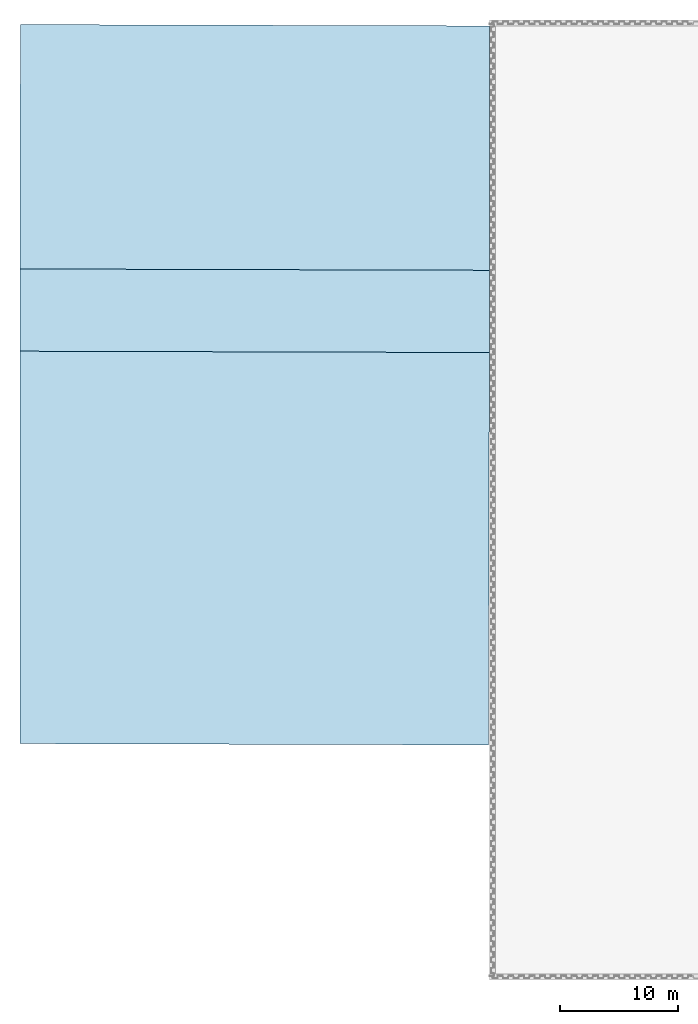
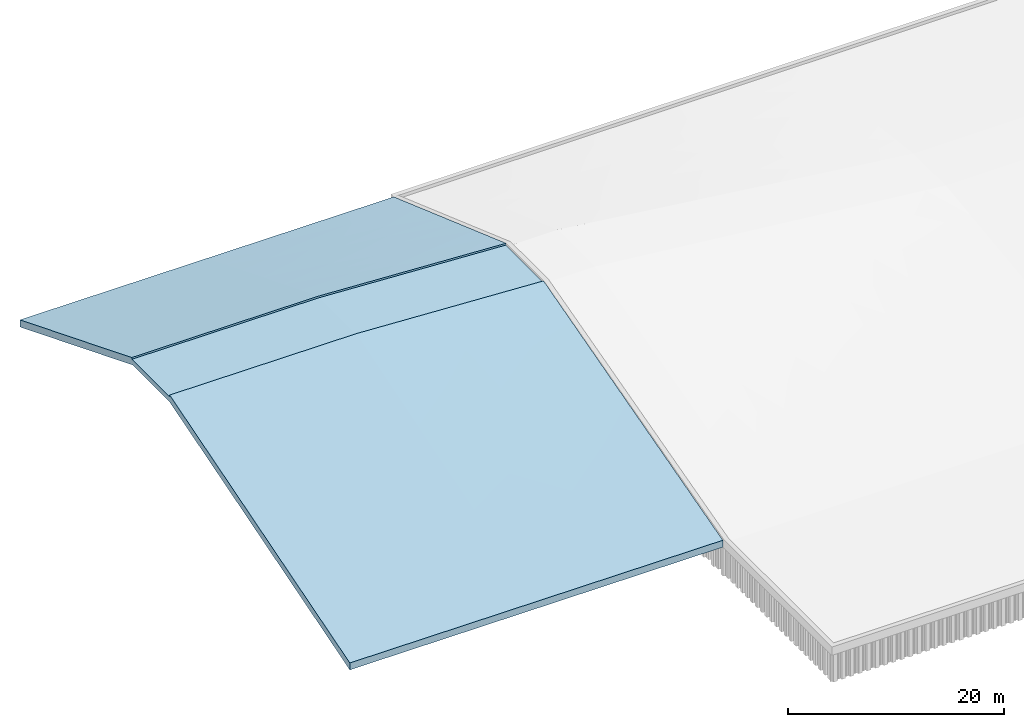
# One storey, part 2 of 32: 1 slab.
"""IFC2X3 building model written with IfcOpenShell, lengths in millimetres."""

import ifcopenshell
import ifcopenshell.guid

model = None  # the IFC model being written
_history = None  # IfcOwnerHistory: only IFC2X3 demands one
_inside = {}  # id of a spatial element -> (the spatial element, [elements in it])
_under = {}  # id of a project, library or spatial element -> (it, [spatial elements below it])
_declared = {}  # id of a project -> (the project, [libraries it declares])
_typed = {}  # id of a type object -> (the type object, [elements of that type])
_made_of = {}  # id of a material, layer set ... -> (it, [elements and type objects made of it])


def new_model(schema):
    """Start an empty IFC model of exactly this schema.

    Asked for "IFC4X3", IfcOpenShell would pick the latest addendum, in which some entities
    have other attributes; the version numbers below select the first issue.
    IFC2X3 requires an IfcOwnerHistory on every rooted entity: one is made here for all.
    """
    global model, _history
    if schema == "IFC4X3":
        model = ifcopenshell.file(schema_version=(4, 3, 0, 0))
    else:
        model = ifcopenshell.file(schema=schema)
    _inside.clear()
    _under.clear()
    _declared.clear()
    _typed.clear()
    _made_of.clear()
    _history = None
    if model.schema == "IFC2X3":
        org = make("IfcOrganization", Name="unknown")
        user = make(
            "IfcPersonAndOrganization",
            ThePerson=make("IfcPerson", FamilyName="unknown"),
            TheOrganization=org,
        )
        app = make(
            "IfcApplication",
            ApplicationDeveloper=org,
            Version="unknown",
            ApplicationFullName="unknown",
            ApplicationIdentifier="unknown",
        )
        _history = make(
            "IfcOwnerHistory",
            OwningUser=user,
            OwningApplication=app,
            ChangeAction="ADDED",
            CreationDate=0,
        )
    return model


def make(cls, **values):
    """One entity of the class cls with the attributes given. An attribute that is None is left unset."""
    return model.create_entity(
        cls, **{name: value for name, value in values.items() if value is not None}
    )


def entity(cls, *values):
    """Any entity or typed value of the class cls, its attributes in the order of the schema. None: left unset."""
    e = model.create_entity(cls)
    for i, value in enumerate(values):
        if value is not None:
            e[i] = value
    return e


def rooted(cls, **values):
    """An entity with a GlobalId (a new one), such as an element, a storey or a relation."""
    return make(cls, GlobalId=ifcopenshell.guid.new(), OwnerHistory=_history, **values)


def si_unit(unit_type, name, prefix=None):
    """IfcSIUnit, for example si_unit("LENGTHUNIT", "METRE", prefix="MILLI")."""
    return make("IfcSIUnit", UnitType=unit_type, Prefix=prefix, Name=name)


def converted_unit(unit_type, name, factor, base, dimensions=None, offset=None):
    """IfcConversionBasedUnit, such as the inch: factor (a typed value) times the base unit."""
    return make(
        "IfcConversionBasedUnit"
        if offset is None
        else "IfcConversionBasedUnitWithOffset",
        ConversionOffset=offset,
        Dimensions=None
        if dimensions is None
        else entity("IfcDimensionalExponents", *dimensions),
        UnitType=unit_type,
        Name=name,
        ConversionFactor=make(
            "IfcMeasureWithUnit", ValueComponent=factor, UnitComponent=base
        ),
    )


def derived_unit(unit_type, elements):
    """IfcDerivedUnit: a product of units, each with its exponent."""
    return make(
        "IfcDerivedUnit",
        Elements=[
            make("IfcDerivedUnitElement", Unit=unit, Exponent=power)
            for unit, power in elements
        ],
        UnitType=unit_type,
    )


def assignment(units):
    """IfcUnitAssignment: the units of a project."""
    return None if units is None else make("IfcUnitAssignment", Units=units)


def point(xyz):
    """IfcCartesianPoint."""
    return None if xyz is None else make("IfcCartesianPoint", Coordinates=xyz)


def direction(xyz):
    """IfcDirection."""
    return None if xyz is None else make("IfcDirection", DirectionRatios=xyz)


def frame(location, z_axis=None, x_axis=None):
    """IfcAxis2Placement3D, a coordinate frame: its origin and axes. An axis left out is left unset."""
    return make(
        "IfcAxis2Placement3D",
        Location=point(location),
        Axis=direction(z_axis),
        RefDirection=direction(x_axis),
    )


def origin():
    """The frame at (0, 0, 0) with its axes left unset."""
    return frame((0.0, 0.0, 0.0))


def place(relative_to, where):
    """IfcLocalPlacement: puts the frame where relative to a parent placement (None: the world)."""
    return make(
        "IfcLocalPlacement", PlacementRelTo=relative_to, RelativePlacement=where
    )


def context(
    kind, dimensions, precision=None, world=None, true_north=None, identifier=None
):
    """IfcGeometricRepresentationContext, for example the 3D "Model" context."""
    return make(
        "IfcGeometricRepresentationContext",
        ContextIdentifier=identifier,
        ContextType=kind,
        CoordinateSpaceDimension=dimensions,
        Precision=precision,
        WorldCoordinateSystem=world,
        TrueNorth=true_north,
    )


def subcontext(parent, identifier, kind, view, scale=None):
    """IfcGeometricRepresentationSubContext, for example "Body" below "Model"."""
    return make(
        "IfcGeometricRepresentationSubContext",
        ContextIdentifier=identifier,
        ContextType=kind,
        ParentContext=parent,
        TargetScale=scale,
        TargetView=view,
    )


def project(units=None, contexts=None):
    """IfcProject with its units and contexts."""
    return rooted(
        "IfcProject",
        Name="project",
        RepresentationContexts=contexts,
        UnitsInContext=assignment(units),
    )


def spatial(cls, under=None, at=None, **own):
    """A site, building, storey or space (cls), placed at a placement, below another one or the project."""
    s = rooted(cls, ObjectPlacement=at, **own)
    if under is not None:
        _under.setdefault(under.id(), (under, []))[1].append(s)
    return s


def faces_of(points, faces, orient=None, outer=None):
    """IfcFace entities. A face is a list of loops; a loop is a list of indices into points, from 0.

    orient and outer hold one flag for each loop. By default every Orientation is true, the
    first loop of a face is its IfcFaceOuterBound and the others are IfcFaceBound.
    """
    made = []
    for i, loops in enumerate(faces):
        bounds = []
        for j, loop in enumerate(loops):
            is_outer = j == 0 if outer is None else outer[i][j]
            bounds.append(
                make(
                    "IfcFaceOuterBound" if is_outer else "IfcFaceBound",
                    Bound=make("IfcPolyLoop", Polygon=[points[k] for k in loop]),
                    Orientation=True if orient is None else orient[i][j],
                )
            )
        made.append(make("IfcFace", Bounds=bounds))
    return made


def faceted_brep(points, faces, orient=None, outer=None, voids=None):
    """IfcFacetedBrep: a solid bounded by flat faces; with voids (closed shells), ...WithVoids."""
    shared = [point(p) for p in points]
    hull = make("IfcClosedShell", CfsFaces=faces_of(shared, faces, orient, outer))
    if voids is None:
        return make("IfcFacetedBrep", Outer=hull)
    return make(
        "IfcFacetedBrepWithVoids",
        Outer=hull,
        Voids=[
            make(cls, CfsFaces=faces_of(shared, fs, o, b)) for cls, fs, o, b in voids
        ],
    )


def shape(context_of_items, identifier, shape_type, items):
    """IfcShapeRepresentation: the items that make up one representation, for example the "Body"."""
    return make(
        "IfcShapeRepresentation",
        ContextOfItems=context_of_items,
        RepresentationIdentifier=identifier,
        RepresentationType=shape_type,
        Items=items,
    )


def made_of(thing, what):
    """Note that an element or type object is made of a material, layer set ...; save() writes the relation."""
    if what is not None:
        _made_of.setdefault(what.id(), (what, []))[1].append(thing)
    return thing


def type_object(cls, material=None, **own):
    """A type object (cls), such as IfcWallType, which elements share."""
    return made_of(rooted(cls, **own), material)


def element(
    cls,
    number,
    at=None,
    inside=None,
    cuts=None,
    type_object=None,
    material=None,
    context=None,
    identifier="Body",
    shape_type=None,
    held_by="IfcProductDefinitionShape",
    body=None,
    shapes=None,
    **own,
):
    """One element of the class cls, such as IfcWall. Its Tag is "e" and its number.

    at: its placement. inside: the storey or other place that contains it. cuts: it is an
    opening in that element (IfcRelVoidsElement). A single representation is given by context,
    identifier, shape_type and body (its items); several are given by shapes. held_by: the class
    of the entity that holds the representations. save() writes the other relations.
    """
    e = rooted(cls, Tag="e%d" % number, ObjectPlacement=at, **own)
    if body is not None:
        shapes = [shape(context, identifier, shape_type, body)]
    if shapes is not None:
        e.Representation = make(held_by, Representations=shapes)
    if inside is not None:
        _inside.setdefault(inside.id(), (inside, []))[1].append(e)
    if cuts is not None:
        rooted(
            "IfcRelVoidsElement", RelatingBuildingElement=cuts, RelatedOpeningElement=e
        )
    if type_object is not None:
        _typed.setdefault(type_object.id(), (type_object, []))[1].append(e)
    return made_of(e, material)


def aggregate(whole, parts):
    """IfcRelAggregates: a whole, such as a stair, and the parts it consists of."""
    return rooted("IfcRelAggregates", RelatingObject=whole, RelatedObjects=parts)


def save(model, path):
    """Write the relations noted so far, then the file.

    IfcRelAggregates (storeys below a building ...), IfcRelContainedInSpatialStructure (elements
    in a storey), IfcRelDefinesByType, IfcRelAssociatesMaterial and IfcRelDeclares: one each for
    every whole, place, type object, material and project.
    """
    for whole, parts in _under.values():
        aggregate(whole, parts)
    for where, things in _inside.values():
        rooted(
            "IfcRelContainedInSpatialStructure",
            RelatedElements=things,
            RelatingStructure=where,
        )
    for kind, things in _typed.values():
        rooted("IfcRelDefinesByType", RelatedObjects=things, RelatingType=kind)
    for what, things in _made_of.values():
        rooted("IfcRelAssociatesMaterial", RelatedObjects=things, RelatingMaterial=what)
    for by, libraries in _declared.values():
        rooted("IfcRelDeclares", RelatingContext=by, RelatedDefinitions=libraries)
    model.write(path)


model = new_model("IFC2X3")

# Units and contexts
model_context = context("Model", 3, precision=0.01, world=origin(), true_north=direction((6.12303176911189e-17, 1.0)))
body_context = subcontext(model_context, "Body", "Model", "MODEL_VIEW")
ifc_project = project(units=[si_unit("LENGTHUNIT", "METRE", prefix="MILLI"), si_unit("AREAUNIT", "SQUARE_METRE"), si_unit("VOLUMEUNIT", "CUBIC_METRE"), converted_unit("PLANEANGLEUNIT", "DEGREE", entity("IfcRatioMeasure", 0.0174532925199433), si_unit("PLANEANGLEUNIT", "RADIAN"), dimensions=[0, 0, 0, 0, 0, 0, 0]), si_unit("MASSUNIT", "GRAM", prefix="KILO"), derived_unit("MASSDENSITYUNIT", [(si_unit("MASSUNIT", "GRAM", prefix="KILO"), 1), (si_unit("LENGTHUNIT", "METRE"), -3)]), si_unit("TIMEUNIT", "SECOND"), si_unit("FREQUENCYUNIT", "HERTZ"), si_unit("THERMODYNAMICTEMPERATUREUNIT", "DEGREE_CELSIUS"), derived_unit("THERMALTRANSMITTANCEUNIT", [(si_unit("MASSUNIT", "GRAM", prefix="KILO"), 1), (si_unit("THERMODYNAMICTEMPERATUREUNIT", "KELVIN"), -1), (si_unit("TIMEUNIT", "SECOND"), -3)]), derived_unit("VOLUMETRICFLOWRATEUNIT", [(si_unit("LENGTHUNIT", "METRE"), 3), (si_unit("TIMEUNIT", "SECOND"), -1)]), si_unit("ELECTRICCURRENTUNIT", "AMPERE"), si_unit("ELECTRICVOLTAGEUNIT", "VOLT"), si_unit("POWERUNIT", "WATT"), si_unit("FORCEUNIT", "NEWTON", prefix="KILO"), si_unit("ILLUMINANCEUNIT", "LUX"), si_unit("LUMINOUSFLUXUNIT", "LUMEN"), si_unit("LUMINOUSINTENSITYUNIT", "CANDELA"), derived_unit("USERDEFINED", [(si_unit("MASSUNIT", "GRAM", prefix="KILO"), -1), (si_unit("LENGTHUNIT", "METRE"), -2), (si_unit("TIMEUNIT", "SECOND"), 3), (si_unit("LUMINOUSFLUXUNIT", "LUMEN"), 1)]), derived_unit("LINEARVELOCITYUNIT", [(si_unit("LENGTHUNIT", "METRE"), 1), (si_unit("TIMEUNIT", "SECOND"), -1)]), si_unit("PRESSUREUNIT", "PASCAL"), derived_unit("USERDEFINED", [(si_unit("LENGTHUNIT", "METRE"), -2), (si_unit("MASSUNIT", "GRAM", prefix="KILO"), 1), (si_unit("TIMEUNIT", "SECOND"), -2)])], contexts=[model_context])

# Site, building, storey
site_placement = place(None, origin())
site = spatial("IfcSite", under=ifc_project, at=site_placement, Name="Default", CompositionType="ELEMENT")
building_placement = place(site_placement, origin())
building = spatial("IfcBuilding", under=site, at=building_placement, CompositionType="ELEMENT")
storey_placement = place(building_placement, origin())
storey = spatial("IfcBuildingStorey", under=building, at=storey_placement, Name="矢板", CompositionType="ELEMENT", Elevation=0.0)

# Slab
slab_type = type_object("IfcSlabType", Name="大型連節ブロック", PredefinedType="FLOOR")
slab_placement = place(storey_placement, frame((-168433.746588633, -32749.8322394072, 5716.69901167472)))
element("IfcSlab", 1, at=slab_placement, inside=storey, type_object=slab_type, Name="大型連節ブロック2:大型連節ブロック", ObjectType="大型連節ブロック2:大型連節ブロック", PredefinedType="FLOOR", context=body_context, shape_type="Brep", body=[
    faceted_brep([(19859.4035777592, 57.6366636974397, 783.300988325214), (19859.4035777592, 57.6366636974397, 0.0), (19955.9753321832, 33568.0264800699, 10096.3009883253), (19975.4114366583, 40312.3529278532, 10096.3009883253), (20035.7775323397, 61259.3825230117, 1674.95996628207), (20035.7775323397, 61259.3825230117, 2483.30098832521), (19975.829638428, 40457.468903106, 10846.3009883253), (19975.829638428, 40457.468903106, 10646.3009883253), (19955.6568061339, 33457.4979705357, 10646.3009883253), (19955.6568061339, 33457.4979705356, 10846.3009883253), (35.8605821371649, 61317.0191867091, 2483.30098832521), (35.8605821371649, 61317.0191867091, 1674.95996628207), (0.0, 48873.4005157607, 6677.67196896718), (0.0, 48873.4005157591, 7486.01299101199), (0.0, 114.868389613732, 783.300988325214), (0.0, 114.868389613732, 0.0), (0.0, 33625.5365108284, 10096.3009883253), (0.0, 40369.9189704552, 10096.3009883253), (0.0, 40515.0361509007, 10846.3009883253), (0.0, 40515.0361509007, 10646.3009883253), (0.0, 33515.0070833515, 10646.3009883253), (0.0, 33515.0070833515, 10846.3009883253)], [[[0, 1, 2, 3, 4, 5, 6, 7, 8, 9]], [[10, 11, 12, 13]], [[1, 0, 14, 15]], [[3, 2, 16, 17]], [[4, 3, 17, 12, 11]], [[5, 4, 11, 10]], [[6, 5, 10, 13, 18]], [[7, 6, 18, 19]], [[8, 7, 19, 20]], [[9, 8, 20, 21]], [[0, 9, 21, 14]], [[2, 1, 15, 16]], [[13, 12, 17, 16, 15, 14, 21, 20, 19, 18]]]),
    faceted_brep([(19859.403577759, 57.6366636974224, 783.300988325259), (19877.6639826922, 6393.99547965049, 2692.37414821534), (19892.5970873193, 11575.7813983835, 4253.58756827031), (19907.5301919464, 16757.5673171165, 5814.80098832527), (19922.4632965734, 21939.3532358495, 7376.01440838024), (19937.3964012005, 27121.1391545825, 8937.22782843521), (19955.6568061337, 33457.4979705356, 10846.3009883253), (19955.6568061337, 33457.4979705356, 10646.3009883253), (19975.8296384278, 40457.4689031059, 10646.3009883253), (19975.8296384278, 40457.4689031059, 10846.3009883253), (19985.3102192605, 43747.2295715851, 9523.71745234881), (19994.7908000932, 47036.9902400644, 8201.13391637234), (20005.8035853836, 50858.4257130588, 6664.80098832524), (20016.816370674, 54679.8611860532, 5128.46806027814), (20026.2969515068, 57969.6218545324, 3805.88452430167), (20035.7775323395, 61259.3825230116, 2483.3009883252), (20035.7775323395, 61259.3825230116, 1674.95996628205), (20028.2317703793, 58641.0038236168, 2727.62759403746), (20020.6860084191, 56022.625124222, 3780.29522179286), (20013.140246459, 53404.2464248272, 4832.96284954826), (20005.5944844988, 50785.8677254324, 5885.63047730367), (19998.0487225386, 48167.4890260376, 6938.29810505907), (19990.5029605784, 45549.1103266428, 7990.96573281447), (19982.9571986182, 42930.731627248, 9043.63336056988), (19975.4114366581, 40312.3529278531, 10096.3009883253), (19955.9753321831, 33568.0264800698, 10096.3009883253), (19937.6833347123, 27220.7050565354, 8183.9249189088), (19922.6863948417, 22016.7683142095, 6616.03770653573), (19907.689454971, 16812.8315718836, 5048.15049416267), (19892.6925151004, 11608.8948295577, 3480.2632817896), (19877.6955752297, 6404.95808723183, 1912.37606941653), (19859.403577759, 57.6366636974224, 0.0), (39859.3205279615, 0.0, 783.300988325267), (39859.3205279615, 0.0, 6.18033161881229), (39874.3127327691, 5202.29367589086, 1417.81456421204), (39889.3049375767, 10404.5873517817, 2829.44879680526), (39904.2971423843, 15606.8810276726, 4241.08302939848), (39919.289347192, 20809.1747035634, 5652.71726199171), (39937.5755686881, 27154.4918644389, 7374.50912515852), (39955.8617901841, 33499.8090253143, 9096.30098832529), (39975.375356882, 40271.0148572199, 9096.30098832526), (39975.746588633, 40399.8322403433, 9050.70506819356), (39975.7465886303, 40399.8322394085, 9646.30098832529), (39955.5737563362, 33399.8613068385, 9646.30098832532), (39955.5737563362, 33399.8613068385, 9846.30098832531), (39940.6406515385, 28218.0753288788, 8440.23148741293), (39925.7075467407, 23036.2893509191, 7034.16198650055), (39910.774441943, 17854.5033729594, 5628.09248558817), (39895.8413371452, 12672.7173949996, 4222.02298467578), (39877.5809325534, 6336.35869749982, 2502.66198650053), (33642.1130030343, 33521.3445411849, 9411.99021988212), (27328.3642158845, 33542.8800570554, 9727.67945143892), (23112.8497257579, 33557.2587221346, 9938.45637254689), (24686.479943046, 40302.6155861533, 9860.74713806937), (29397.5484494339, 40292.8782444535, 9625.19328781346), (34686.4619031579, 40281.9465508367, 9360.74713806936), (33266.7358396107, 49731.6428178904, 5936.33342942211), (36662.4260506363, 51094.4739432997, 5347.90582881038), (36645.4106030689, 48858.3053444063, 6157.71956437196), (24743.5548403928, 42535.7692803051, 8985.92294393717), (36389.7287032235, 46628.1627832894, 6973.93331776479), (39975.746588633, 45022.6345901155, 7414.80346496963), (36098.3063206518, 43871.0820825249, 7985.65974687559), (39975.746588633, 42711.2334152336, 8232.7542665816), (32058.8840174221, 46144.056347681, 7308.23315289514), (26187.153448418, 44575.2256276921, 8131.05212681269), (28179.664217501, 46748.3065764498, 7219.67069457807), (32335.6220522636, 57517.0513732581, 3063.41965790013), (31916.6027192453, 55124.2684874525, 3960.83374446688), (28569.346287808, 54738.6280534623, 4158.56410992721), (32049.7661228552, 42980.1886726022, 8488.46860988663), (39975.746588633, 61201.9186198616, 1687.66686626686), (39975.746588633, 58312.7981998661, 2710.47561513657), (36545.7053936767, 59200.2140233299, 2414.35384328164), (39975.746588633, 52534.557359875, 4756.09311287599), (35298.8505541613, 53985.9616217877, 4325.59140739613), (39975.746588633, 55423.6777798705, 3733.28436400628), (28297.4714342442, 42582.9679998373, 8806.46717245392), (26610.4859107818, 49058.2929525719, 6383.27967314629), (23789.4001590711, 46940.0410500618, 7299.35989715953), (26364.5614307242, 51809.9140449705, 5326.61212629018), (30373.4580251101, 52922.2899623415, 4814.50351961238), (29649.5823654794, 50552.2555802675, 5727.0525430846), (39975.746588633, 47334.0357649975, 6596.85266335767), (36434.7789609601, 56873.8177633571, 3258.42518819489), (39975.746588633, 49645.4369398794, 5778.9018617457), (25020.7697964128, 61245.0165472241, 1678.13669127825), (25780.7318403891, 58046.8455077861, 2919.3189675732), (34686.8456980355, 61217.1604132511, 1684.29647314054), (30005.7620604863, 61230.6505714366, 1681.31341627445), (25193.3580446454, 54467.2373003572, 4318.62291598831), (24734.2168378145, 61245.8423484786, 2483.3009883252), (29432.6561432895, 61232.3021739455, 2483.3009883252), (32068.4302207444, 61224.7062811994, 2483.3009883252), (34704.2013659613, 61217.1103969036, 2483.3009883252), (39975.7465886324, 61201.9186198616, 2483.3009883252), (24975.8088759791, 40443.0597374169, 10596.300988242), (25984.5826097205, 44320.4311173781, 9042.3820679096), (33792.3588485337, 48799.0202871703, 7064.9985232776), (39975.746588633, 46178.3059669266, 7801.35205873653), (39975.746588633, 49067.542830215, 6778.87759410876), (27115.7893631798, 54514.6706640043, 5071.90943475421), (31189.901612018, 55236.3786473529, 4730.92325112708), (27122.8059689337, 56949.422885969, 4134.61266404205), (24424.8989591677, 52756.4250529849, 5806.56414483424), (23629.5401910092, 55742.1035937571, 4649.45334492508), (30111.3160358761, 50107.2923568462, 6684.83686447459), (29796.501147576, 52740.9451492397, 5696.94344549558), (33632.1296815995, 57957.8622756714, 3688.16054420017), (27086.4752658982, 59342.9344025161, 3213.43713477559), (23809.88880442, 58104.5484068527, 3718.66790437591), (26329.9101073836, 48929.4680875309, 7245.65624571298), (26460.014621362, 46615.5831641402, 8135.74403990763), (29731.2407088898, 43072.1024779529, 9358.37296936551), (29145.931277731, 45207.5408543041, 8573.32353277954), (34975.7673510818, 40414.2414060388, 10096.3009880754), (39975.746588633, 43289.0691036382, 8823.82652336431), (33456.5455750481, 44332.0575491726, 8726.21752729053), (39975.746588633, 51956.7796935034, 5756.40312948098), (35187.1309466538, 54350.1775104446, 4993.07785758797), (33969.5582800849, 51626.3939888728, 6017.96362416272), (33394.9403286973, 46572.6614243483, 7900.43662716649), (29998.195769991, 47305.1481844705, 7746.93613115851), (29975.7881135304, 40428.6505717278, 10346.3009881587), (39975.746588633, 56579.3491566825, 4119.85205890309), (39975.7465886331, 58890.6338882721, 3301.57652361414), (39975.746588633, 54268.0644250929, 4938.12759419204), (39975.746588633, 40399.8322403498, 9846.30098799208), (23117.5123547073, 33448.3859924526, 10688.2075544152), (27308.1510631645, 33436.3092206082, 10478.6747489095), (33631.8621603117, 33418.0852644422, 10162.4878810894), (23016.2825560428, 48.5390273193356, 0.975531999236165), (27231.8041115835, 36.3905469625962, 2.27820346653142), (33545.562068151, 18.1952742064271, 4.22926746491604), (36702.4415496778, 9.09763637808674, 5.20479961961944), (33535.6090341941, 18.2239573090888, 783.300988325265), (27211.8975404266, 36.4479146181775, 783.300988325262), (23021.2593246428, 48.5246850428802, 783.30098832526), (28701.6768261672, 5041.05792267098, 1445.65865885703), (24545.1623907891, 4056.75381022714, 1182.32086194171), (24684.9461259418, 8347.16233831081, 2443.52197033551), (30472.8557832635, 29235.0506887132, 8342.90121676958), (35405.2558375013, 19250.4904118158, 5354.75129993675), (35241.6525230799, 13020.104534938, 3624.75009686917), (31366.6538894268, 16693.8432625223, 4739.87514881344), (35360.6462883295, 28910.2505019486, 8044.19331946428), (36117.0005584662, 23994.2608909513, 6649.70564476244), (29529.7859154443, 10192.2940705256, 2918.15834214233), (34782.6838449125, 6716.30129725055, 1874.21531883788), (25206.1223081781, 28523.929655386, 8358.35204028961), (24159.3257469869, 23961.6364879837, 7055.54087831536), (29682.0575153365, 23237.734447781, 6656.4951742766), (25203.2121786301, 19397.9428707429, 5680.05251081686), (24754.5659817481, 13554.939186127, 3974.09984087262), (32334.014358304, 3708.79658962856, 1045.93846209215), (35790.6161573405, 3376.54077798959, 938.498512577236), (28768.8630839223, 28446.1318386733, 8968.60646357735), (24619.4853212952, 29445.8089618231, 9435.89931727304), (24737.1541464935, 25171.2557884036, 8173.16345428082), (30386.0668400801, 4299.91553344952, 2003.3296844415), (35398.1705308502, 14238.8729952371, 4739.35590820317), (35266.6894854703, 20458.8026152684, 6473.4982355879), (31386.5677516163, 16808.9765444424, 5551.83376266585), (35282.6449288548, 4612.33700201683, 2062.86359325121), (36069.9454135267, 9515.53724045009, 3416.64917954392), (29571.1582729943, 23308.2419226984, 7460.71989894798), (34841.9616534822, 26746.0593020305, 8240.68275912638), (25131.0163117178, 5052.46454335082, 2253.32173438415), (24118.2513148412, 9609.31863632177, 3604.20790723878), (29651.0781590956, 10287.784874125, 3724.08977520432), (25195.1273202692, 14151.4165771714, 4922.35516752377), (24773.8721272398, 19981.7645425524, 6645.4615126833)], [[[0, 1, 2, 3, 4, 5, 6, 7, 8, 9, 10, 11, 12, 13, 14, 15, 16, 17, 18, 19, 20, 21, 22, 23, 24, 25, 26, 27, 28, 29, 30, 31]], [[32, 33, 34, 35, 36, 37, 38, 39, 40, 41, 42, 43, 44, 45, 46, 47, 48, 49]], [[39, 50, 51, 52, 25, 24, 53, 54, 55, 40]], [[56, 57, 58]], [[24, 23, 22, 59]], [[60, 61, 62]], [[41, 40, 55]], [[62, 61, 63]], [[64, 65, 66]], [[67, 68, 69]], [[54, 70, 55]], [[71, 72, 73]], [[24, 59, 53]], [[55, 63, 41]], [[74, 75, 76]], [[77, 64, 70]], [[62, 55, 70]], [[54, 77, 70]], [[78, 66, 79]], [[78, 79, 21]], [[80, 81, 82]], [[64, 60, 62]], [[55, 62, 63]], [[64, 62, 70]], [[56, 60, 64]], [[58, 83, 60]], [[56, 64, 66]], [[84, 72, 76]], [[57, 81, 75]], [[57, 74, 85]], [[75, 74, 57]], [[17, 86, 87]], [[68, 84, 75]], [[88, 67, 89]], [[75, 81, 68]], [[87, 89, 67]], [[90, 18, 87]], [[87, 67, 69]], [[87, 18, 17]], [[72, 84, 73]], [[75, 84, 76]], [[73, 67, 88]], [[67, 73, 84]], [[71, 73, 88]], [[58, 57, 85]], [[57, 56, 81]], [[59, 65, 77]], [[56, 58, 60]], [[90, 69, 80]], [[80, 19, 90]], [[83, 58, 85]], [[83, 61, 60]], [[64, 77, 65]], [[77, 54, 53]], [[53, 59, 77]], [[65, 59, 22]], [[79, 65, 22]], [[66, 78, 82]], [[65, 79, 66]], [[21, 20, 78]], [[79, 22, 21]], [[69, 68, 81]], [[84, 68, 67]], [[80, 69, 81]], [[87, 69, 90]], [[86, 17, 16]], [[82, 81, 56]], [[86, 89, 87]], [[20, 80, 78]], [[66, 82, 56]], [[78, 80, 82]], [[19, 80, 20]], [[19, 18, 90]], [[71, 88, 89, 86, 16, 15, 91, 92, 93, 94, 95]], [[10, 96, 97]], [[98, 99, 100]], [[101, 102, 103]], [[104, 101, 105]], [[104, 106, 107]], [[13, 12, 104]], [[103, 108, 109]], [[103, 110, 105]], [[111, 12, 11]], [[106, 104, 111]], [[97, 112, 11]], [[113, 114, 97]], [[115, 116, 117]], [[118, 119, 120]], [[121, 99, 98]], [[97, 11, 10]], [[98, 106, 122]], [[123, 115, 113, 96]], [[111, 104, 12]], [[101, 104, 107]], [[119, 124, 108]], [[105, 110, 14]], [[107, 102, 101]], [[108, 94, 93, 92]], [[125, 95, 94]], [[120, 119, 107]], [[119, 118, 126, 124]], [[122, 106, 111]], [[120, 106, 98]], [[112, 122, 111]], [[121, 98, 122]], [[11, 112, 111]], [[114, 112, 97]], [[114, 121, 122]], [[99, 121, 117]], [[96, 10, 9]], [[120, 100, 118]], [[117, 121, 114]], [[96, 113, 97]], [[117, 114, 113]], [[112, 114, 122]], [[113, 115, 117]], [[102, 107, 119]], [[101, 103, 105]], [[119, 108, 102]], [[103, 102, 108]], [[105, 14, 13]], [[91, 110, 109]], [[104, 105, 13]], [[109, 110, 103]], [[14, 110, 15]], [[15, 110, 91]], [[106, 120, 107]], [[91, 109, 92]], [[125, 94, 108]], [[108, 124, 125]], [[108, 92, 109]], [[120, 98, 100]], [[116, 115, 127]], [[116, 99, 117]], [[42, 127, 8]], [[8, 127, 115, 123, 96, 9]], [[7, 43, 42, 8]], [[7, 6, 128, 129, 130, 44, 43]], [[0, 31, 131, 132, 133, 134, 33, 32, 135, 136, 137]], [[26, 25, 52]], [[138, 139, 140]], [[51, 50, 141]], [[142, 143, 144]], [[145, 146, 141]], [[147, 143, 148]], [[149, 52, 51]], [[150, 151, 152]], [[30, 139, 31]], [[30, 29, 140]], [[139, 30, 140]], [[153, 144, 147]], [[144, 152, 151]], [[38, 146, 145]], [[26, 52, 149]], [[27, 150, 152]], [[51, 141, 149]], [[39, 38, 145]], [[27, 152, 28]], [[149, 150, 26]], [[153, 28, 152]], [[142, 151, 146]], [[143, 142, 36]], [[144, 153, 152]], [[140, 153, 147]], [[145, 141, 50]], [[151, 149, 141]], [[39, 145, 50]], [[38, 37, 146]], [[142, 146, 37]], [[141, 146, 151]], [[142, 37, 36]], [[151, 142, 144]], [[36, 35, 143]], [[148, 143, 35]], [[147, 144, 143]], [[154, 155, 133]], [[154, 138, 148]], [[140, 147, 138]], [[140, 29, 153]], [[147, 148, 138]], [[154, 148, 155]], [[139, 132, 131, 31]], [[138, 154, 132]], [[148, 35, 34]], [[28, 153, 29]], [[132, 139, 138]], [[26, 150, 27]], [[151, 150, 149]], [[133, 155, 33, 134]], [[132, 154, 133]], [[148, 34, 155]], [[33, 155, 34]], [[1, 0, 137]], [[156, 157, 158]], [[136, 135, 159]], [[160, 161, 162]], [[163, 164, 159]], [[165, 161, 166]], [[167, 137, 136]], [[168, 169, 170]], [[5, 157, 6]], [[5, 4, 158]], [[157, 5, 158]], [[171, 162, 165]], [[162, 170, 169]], [[49, 164, 163]], [[1, 137, 167]], [[2, 168, 170]], [[136, 159, 167]], [[32, 49, 163]], [[2, 170, 3]], [[167, 168, 1]], [[171, 3, 170]], [[160, 169, 164]], [[161, 160, 47]], [[162, 171, 170]], [[158, 171, 165]], [[163, 159, 135]], [[169, 167, 159]], [[32, 163, 135]], [[49, 48, 164]], [[160, 164, 48]], [[159, 164, 169]], [[160, 48, 47]], [[169, 160, 162]], [[47, 46, 161]], [[166, 161, 46]], [[165, 162, 161]], [[130, 45, 44]], [[130, 156, 166]], [[158, 165, 156]], [[158, 4, 171]], [[165, 166, 156]], [[130, 166, 45]], [[157, 129, 128, 6]], [[129, 156, 130]], [[166, 46, 45]], [[3, 171, 4]], [[129, 157, 156]], [[1, 168, 2]], [[169, 168, 167]], [[85, 74, 76, 72, 71, 95, 125, 124, 126, 118, 100, 99, 116, 127, 42, 41, 63, 61, 83]]]),
])

save(model, "model.ifc")
